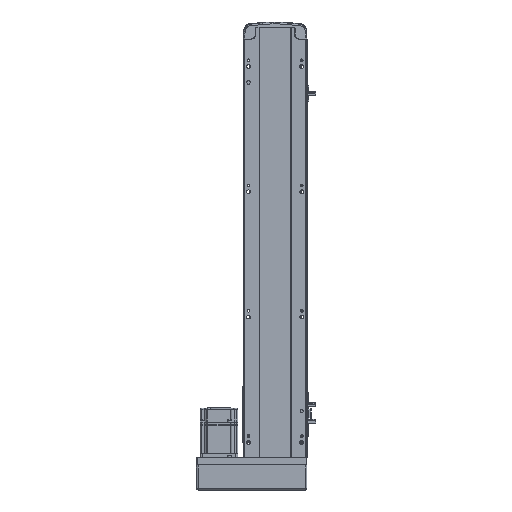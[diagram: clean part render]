
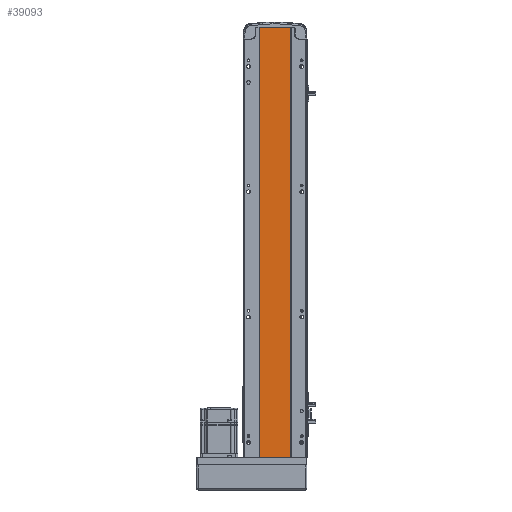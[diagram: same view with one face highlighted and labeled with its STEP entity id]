
A CAD part, front view. The second image highlights one B-rep face of the part: STEP entity #39093.
In plain terms, the highlighted planar face has unit normal (0, -1, 0).
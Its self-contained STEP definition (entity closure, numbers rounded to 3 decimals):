
#732 = VECTOR ( 'NONE', #45934, 1000. ) ;
#1092 = DIRECTION ( 'NONE',  ( 1., 0., 0. ) ) ;
#1274 = ORIENTED_EDGE ( 'NONE', *, *, #24964, .T. ) ;
#2260 = DIRECTION ( 'NONE',  ( 0., 0., -1. ) ) ;
#3723 = VECTOR ( 'NONE', #32409, 1000. ) ;
#6074 = CARTESIAN_POINT ( 'NONE',  ( 0., 2., 0. ) ) ;
#8811 = CARTESIAN_POINT ( 'NONE',  ( -24.5, 2., 687. ) ) ;
#8981 = CARTESIAN_POINT ( 'NONE',  ( -24.5, 2., 687. ) ) ;
#9476 = EDGE_CURVE ( 'NONE', #34204, #56135, #30890, .T. ) ;
#10787 = VERTEX_POINT ( 'NONE', #29260 ) ;
#15238 = LINE ( 'NONE', #56161, #43781 ) ;
#16511 = CARTESIAN_POINT ( 'NONE',  ( 24.5, 2., 687. ) ) ;
#16848 = VECTOR ( 'NONE', #1092, 1000. ) ;
#17328 = ORIENTED_EDGE ( 'NONE', *, *, #55067, .F. ) ;
#18202 = CARTESIAN_POINT ( 'NONE',  ( -24.5, 2., 687. ) ) ;
#19067 = DIRECTION ( 'NONE',  ( 0., 1., 0. ) ) ;
#19191 = ORIENTED_EDGE ( 'NONE', *, *, #9476, .F. ) ;
#22888 = CARTESIAN_POINT ( 'NONE',  ( 0., 2., 687. ) ) ;
#23783 = CARTESIAN_POINT ( 'NONE',  ( 24.5, 2., 0. ) ) ;
#24964 = EDGE_CURVE ( 'NONE', #10787, #55686, #26871, .T. ) ;
#26871 = LINE ( 'NONE', #6074, #16848 ) ;
#29260 = CARTESIAN_POINT ( 'NONE',  ( -24.5, 2., 0. ) ) ;
#30890 = LINE ( 'NONE', #8981, #3723 ) ;
#32409 = DIRECTION ( 'NONE',  ( 1., 0., 0. ) ) ;
#34204 = VERTEX_POINT ( 'NONE', #8811 ) ;
#39093 = ADVANCED_FACE ( 'NONE', ( #55451 ), #45609, .F. ) ;
#42766 = ORIENTED_EDGE ( 'NONE', *, *, #49529, .T. ) ;
#43781 = VECTOR ( 'NONE', #2260, 1000. ) ;
#45609 = PLANE ( 'NONE',  #49488 ) ;
#45934 = DIRECTION ( 'NONE',  ( 0., 0., -1. ) ) ;
#49488 = AXIS2_PLACEMENT_3D ( 'NONE', #22888, #19067, #55574 ) ;
#49529 = EDGE_CURVE ( 'NONE', #34204, #10787, #50721, .T. ) ;
#50721 = LINE ( 'NONE', #18202, #732 ) ;
#51754 = EDGE_LOOP ( 'NONE', ( #1274, #17328, #19191, #42766 ) ) ;
#55067 = EDGE_CURVE ( 'NONE', #56135, #55686, #15238, .T. ) ;
#55451 = FACE_OUTER_BOUND ( 'NONE', #51754, .T. ) ;
#55574 = DIRECTION ( 'NONE',  ( 0., 0., 1. ) ) ;
#55686 = VERTEX_POINT ( 'NONE', #23783 ) ;
#56135 = VERTEX_POINT ( 'NONE', #16511 ) ;
#56161 = CARTESIAN_POINT ( 'NONE',  ( 24.5, 2., 687. ) ) ;
